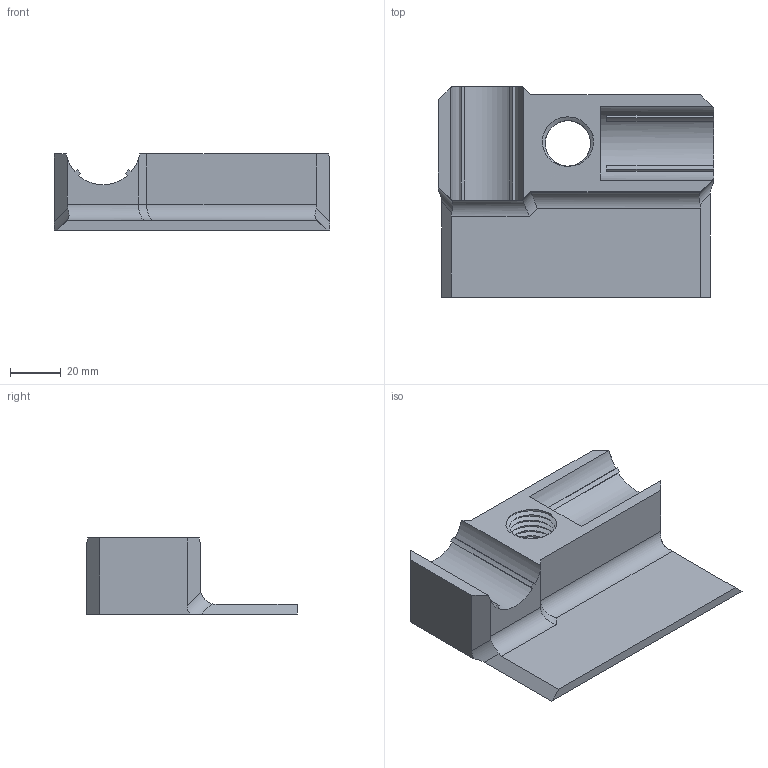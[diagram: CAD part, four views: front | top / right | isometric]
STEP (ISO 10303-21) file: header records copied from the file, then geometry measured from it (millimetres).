
FILE_DESCRIPTION(/* description */ ('STEP AP242 Edition 2','CAx-IF Rec.Pracs.---Representation and Presentation of Product Manufacturing Information (PMI)---4.0---2014-10-13','CAx-IF Rec.Pracs.---3D Tessellated Geometry---0.4---2014-09-14','2;1','CAx-IF Rec.Pracs.---User Defined Attributes---1.5---2016-08-15'),/* implementation_level */ '2;1');
FILE_NAME(/* name */ 'wall corner - boundary corner lower',/* time_stamp */ '2026-06-03T10:24:18Z',/* author */ (''),/* organization */ (''),/* preprocessor_version */ 'ST-DEVELOPER v20',/* originating_system */ 'ONSHAPE BY PTC INC, 1.215',/* authorisation */ ' ');
FILE_SCHEMA (('AP242_MANAGED_MODEL_BASED_3D_ENGINEERING_MIM_LF { 1 0 10303 442 3 1 4 }'));
Length unit declared in the file: metre
Products named in the file (1): boundary corner lower
Bounding box: 107.95 x 82.55 x 29.84 mm (x, y, z)
Volume: 112299.6 mm3; surface area: 29024.4 mm2
Topology: 1 solids, 1 shells, 71 faces, 213 edges, 144 vertices
Faces by surface type: cylinder 39, plane 30, bspline 2
Entity records: 6249 total; most frequent: CARTESIAN_POINT 4369, ORIENTED_EDGE 426, DIRECTION 344, EDGE_CURVE 213, VERTEX_POINT 144, AXIS2_PLACEMENT_3D 118, LINE 108, VECTOR 108
